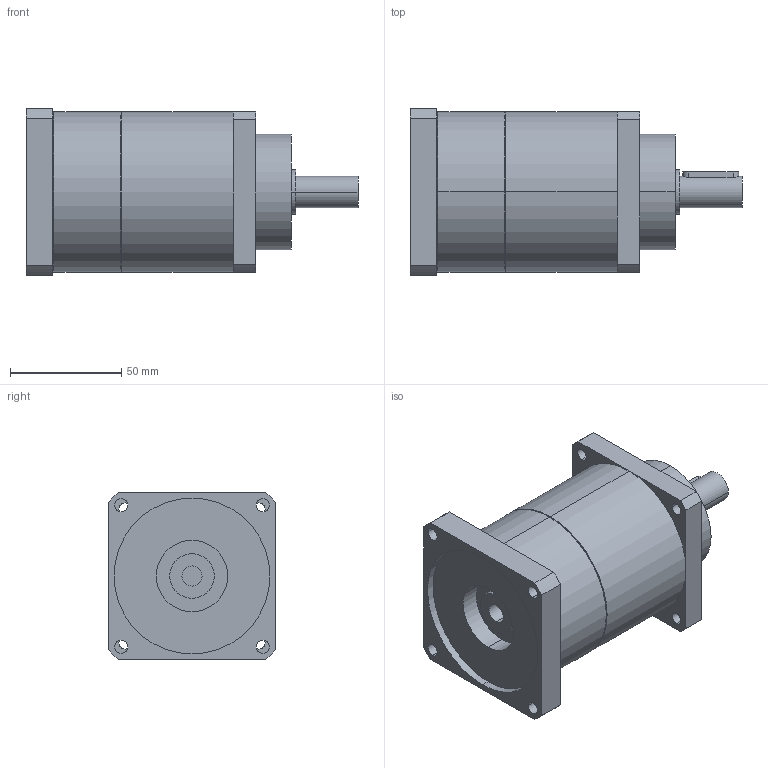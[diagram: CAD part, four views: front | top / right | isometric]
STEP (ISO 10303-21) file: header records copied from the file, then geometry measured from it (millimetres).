
FILE_DESCRIPTION(('CoCreate Modeling STEP Export'),'2;1');
FILE_NAME('GPT75_ig-9-12-16-20-25-28-35-40-50-70-100_14_B5T_9_P24.stp','2014-08-27T13:44:14',(''),(''),'CoCreate Modeling STEP processor for AP214 (Solid Model)','CoCreate Modeling 16.00C 25-Feb-2009 (C) Parametric Technology GmbH','');
FILE_SCHEMA(('AUTOMOTIVE_DESIGN { 1 0 10303 214 1 1 1 1 }'));
Length unit declared in the file: millimetre
Products named in the file (2): GPT75_ig-9-12-16-20-25-28-35-40-50-70-100_14_B5T_9_P24
Assembly tree (1 placements, depth 2):
  GPT75_ig-9-12-16-20-25-28-35-40-50-70-100_14_B5T_9_P24
    GPT75_ig-9-12-16-20-25-28-35-40-50-70-100_14_B5T_9_P24
Bounding box: 149 x 75 x 75 mm (x, y, z)
Volume: 463866.7 mm3; surface area: 46467.7 mm2
Topology: 1 solids, 1 shells, 77 faces, 191 edges, 126 vertices
Faces by surface type: cylinder 46, plane 27, cone 4
Entity records: 2469 total; most frequent: CARTESIAN_POINT 716, ORIENTED_EDGE 382, DIRECTION 320, EDGE_CURVE 191, VERTEX_POINT 126, AXIS2_PLACEMENT_3D 118, EDGE_LOOP 103, VECTOR 84
